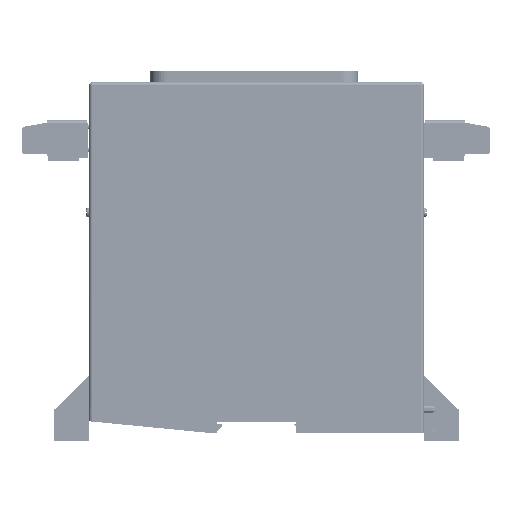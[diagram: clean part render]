
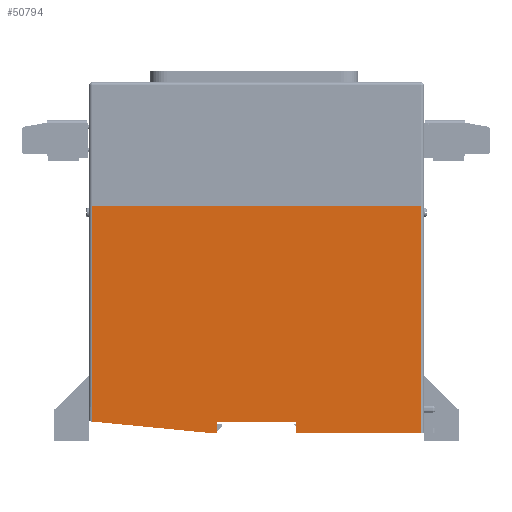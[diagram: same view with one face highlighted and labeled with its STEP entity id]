
A CAD part, left-side view. The second image highlights one B-rep face of the part: STEP entity #50794.
In plain terms, the highlighted planar face has unit normal (-1, 0, 0) as drawn and (1, 0, 0) by its records, which use the part's own axes.
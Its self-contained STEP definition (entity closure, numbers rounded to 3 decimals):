
#3071=PLANE('',#54025);
#5073=FACE_OUTER_BOUND('',#7957,.T.);
#7957=EDGE_LOOP('',(#38281,#38282,#38283,#38284,#38285,#38286,#38287,#38288,
#38289));
#11804=LINE('',#75297,#17005);
#11836=LINE('',#75366,#17037);
#11875=LINE('',#75473,#17076);
#11876=LINE('',#75475,#17077);
#11877=LINE('',#75477,#17078);
#11878=LINE('',#75478,#17079);
#11879=LINE('',#75480,#17080);
#11880=LINE('',#75482,#17081);
#11881=LINE('',#75483,#17082);
#17005=VECTOR('',#60917,1.);
#17037=VECTOR('',#60963,1.);
#17076=VECTOR('',#61064,1.);
#17077=VECTOR('',#61065,1.);
#17078=VECTOR('',#61066,1.);
#17079=VECTOR('',#61067,1.);
#17080=VECTOR('',#61068,1.);
#17081=VECTOR('',#61069,1.);
#17082=VECTOR('',#61070,1.);
#23651=VERTEX_POINT('',#75294);
#23652=VERTEX_POINT('',#75296);
#23682=VERTEX_POINT('',#75365);
#23718=VERTEX_POINT('',#75471);
#23719=VERTEX_POINT('',#75472);
#23720=VERTEX_POINT('',#75474);
#23721=VERTEX_POINT('',#75476);
#23722=VERTEX_POINT('',#75479);
#23723=VERTEX_POINT('',#75481);
#29108=EDGE_CURVE('',#23652,#23651,#11804,.T.);
#29143=EDGE_CURVE('',#23682,#23652,#11836,.T.);
#29195=EDGE_CURVE('',#23718,#23719,#11875,.T.);
#29196=EDGE_CURVE('',#23720,#23719,#11876,.T.);
#29197=EDGE_CURVE('',#23720,#23721,#11877,.T.);
#29198=EDGE_CURVE('',#23682,#23721,#11878,.T.);
#29199=EDGE_CURVE('',#23651,#23722,#11879,.T.);
#29200=EDGE_CURVE('',#23722,#23723,#11880,.T.);
#29201=EDGE_CURVE('',#23723,#23718,#11881,.T.);
#38281=ORIENTED_EDGE('',*,*,#29195,.T.);
#38282=ORIENTED_EDGE('',*,*,#29196,.F.);
#38283=ORIENTED_EDGE('',*,*,#29197,.T.);
#38284=ORIENTED_EDGE('',*,*,#29198,.F.);
#38285=ORIENTED_EDGE('',*,*,#29143,.T.);
#38286=ORIENTED_EDGE('',*,*,#29108,.T.);
#38287=ORIENTED_EDGE('',*,*,#29199,.T.);
#38288=ORIENTED_EDGE('',*,*,#29200,.T.);
#38289=ORIENTED_EDGE('',*,*,#29201,.T.);
#50794=ADVANCED_FACE('',(#5073),#3071,.T.);
#54025=AXIS2_PLACEMENT_3D('',#75470,#61062,#61063);
#60917=DIRECTION('',(0.,0.,1.));
#60963=DIRECTION('',(0.,1.,0.));
#61062=DIRECTION('center_axis',(1.,0.,0.));
#61063=DIRECTION('ref_axis',(0.,1.,0.));
#61064=DIRECTION('',(0.,0.,1.));
#61065=DIRECTION('',(0.,1.,0.));
#61066=DIRECTION('',(0.,0.,-1.));
#61067=DIRECTION('',(0.,-0.995,0.096));
#61068=DIRECTION('',(0.,1.,0.));
#61069=DIRECTION('',(0.,0.,-1.));
#61070=DIRECTION('',(0.,1.,0.));
#75294=CARTESIAN_POINT('',(148.82,11.713,-3.5));
#75296=CARTESIAN_POINT('',(148.82,11.713,-8.5));
#75297=CARTESIAN_POINT('',(148.82,11.713,0.));
#75365=CARTESIAN_POINT('',(148.82,7.713,-8.5));
#75366=CARTESIAN_POINT('',(148.82,0.,-8.5));
#75470=CARTESIAN_POINT('Origin',(148.82,-237.707,-106.013));
#75471=CARTESIAN_POINT('',(148.82,102.213,-8.5));
#75472=CARTESIAN_POINT('',(148.82,102.213,92.5));
#75473=CARTESIAN_POINT('',(148.82,102.213,0.));
#75474=CARTESIAN_POINT('',(148.82,-43.787,92.5));
#75475=CARTESIAN_POINT('',(148.82,0.,92.5));
#75476=CARTESIAN_POINT('',(148.82,-43.787,-3.508));
#75477=CARTESIAN_POINT('',(148.82,-43.787,0.));
#75478=CARTESIAN_POINT('',(148.82,0.,-7.752));
#75479=CARTESIAN_POINT('',(148.82,46.713,-3.5));
#75480=CARTESIAN_POINT('',(148.82,0.,-3.5));
#75481=CARTESIAN_POINT('',(148.82,46.713,-8.5));
#75482=CARTESIAN_POINT('',(148.82,46.713,-3.5));
#75483=CARTESIAN_POINT('',(148.82,0.,-8.5));
